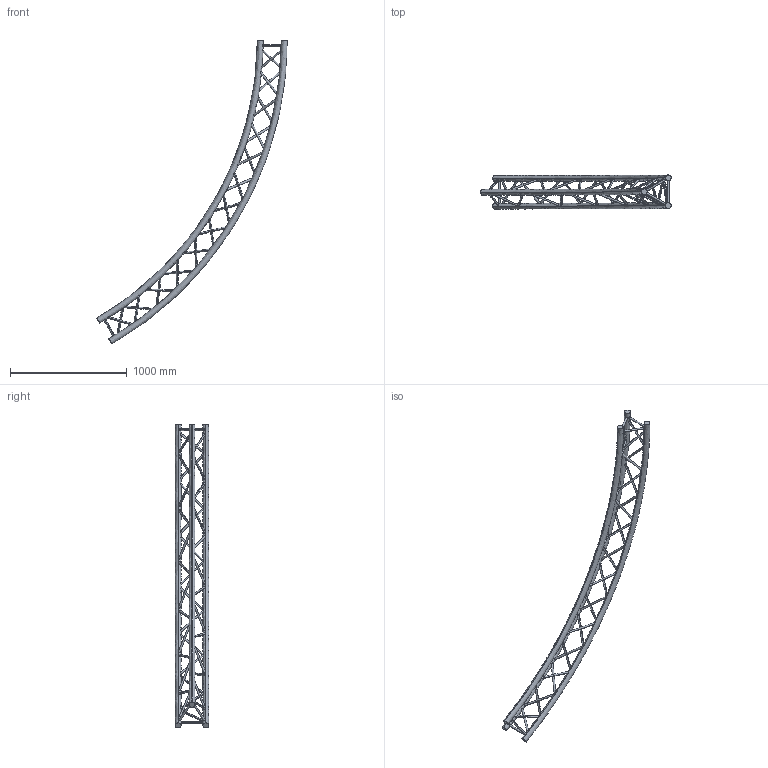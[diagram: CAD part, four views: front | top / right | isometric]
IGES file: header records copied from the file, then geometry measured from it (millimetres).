
Start section: SolidWorks IGES file using analytic representation for surfaces
Global section: file name: K:\BIBLIO\asd_biblio\SX290\Cercles\SXC29PI\SXC29600PI\SXC29600PI.IGS; native system: SolidWorks 2009; preprocessor: SolidWorks 2009; author: des3; date: 091021.110044; units: millimetre
Bounding box: 1627.62 x 287 x 2598.08 mm (x, y, z)
Surface area: 1989628.9 mm2 (no closed solid volume)
Topology: 0 solids, 0 shells, 102 faces, 7120 edges, 7120 vertices
Faces by surface type: revolution 90, bspline 12
